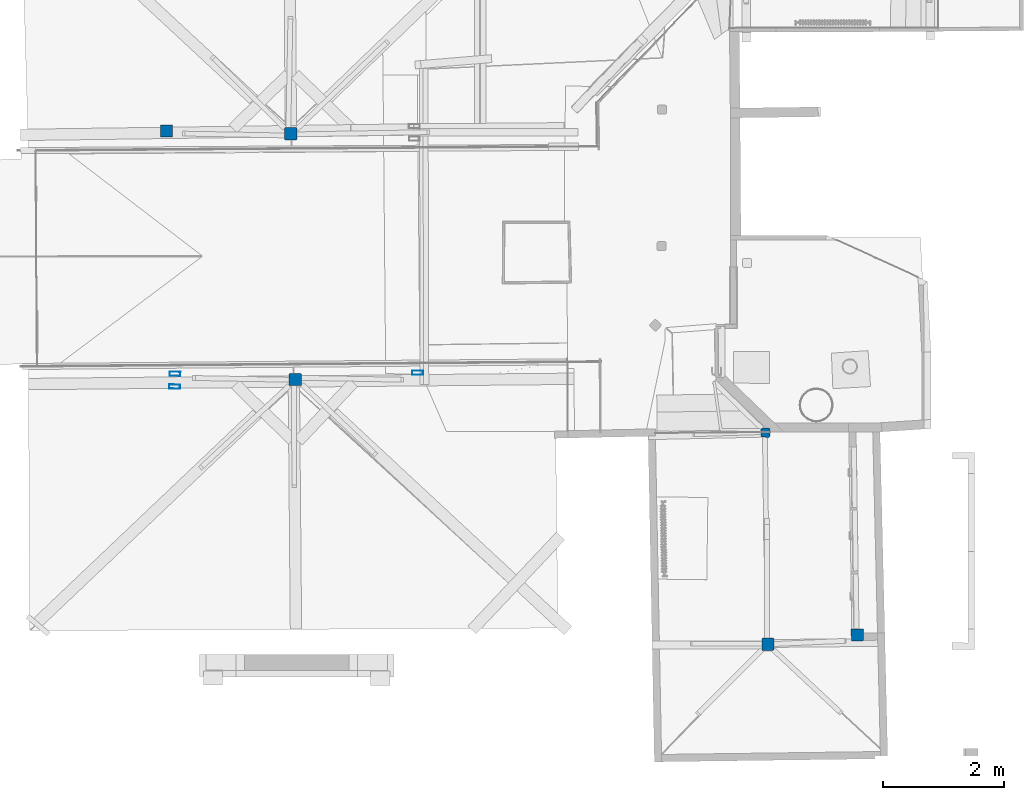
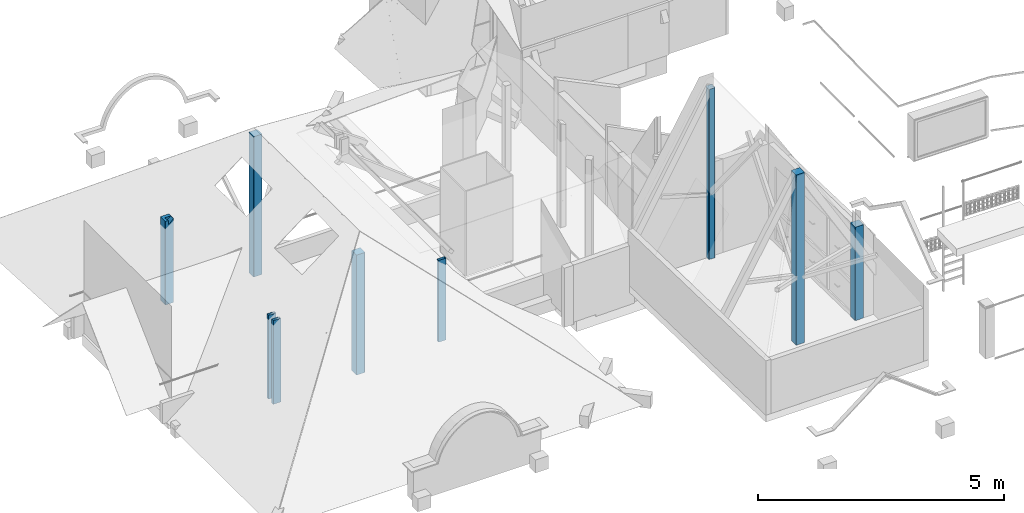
# One storey, part 1 of 39: 9 columns.
"""IFC2X3 building model written with IfcOpenShell, lengths in centimetres."""

import ifcopenshell
import ifcopenshell.guid

model = None  # the IFC model being written
_history = None  # IfcOwnerHistory: only IFC2X3 demands one
_inside = {}  # id of a spatial element -> (the spatial element, [elements in it])
_under = {}  # id of a project, library or spatial element -> (it, [spatial elements below it])
_declared = {}  # id of a project -> (the project, [libraries it declares])
_typed = {}  # id of a type object -> (the type object, [elements of that type])
_made_of = {}  # id of a material, layer set ... -> (it, [elements and type objects made of it])


def new_model(schema):
    """Start an empty IFC model of exactly this schema.

    Asked for "IFC4X3", IfcOpenShell would pick the latest addendum, in which some entities
    have other attributes; the version numbers below select the first issue.
    IFC2X3 requires an IfcOwnerHistory on every rooted entity: one is made here for all.
    """
    global model, _history
    if schema == "IFC4X3":
        model = ifcopenshell.file(schema_version=(4, 3, 0, 0))
    else:
        model = ifcopenshell.file(schema=schema)
    _inside.clear()
    _under.clear()
    _declared.clear()
    _typed.clear()
    _made_of.clear()
    _history = None
    if model.schema == "IFC2X3":
        org = make("IfcOrganization", Name="unknown")
        user = make(
            "IfcPersonAndOrganization",
            ThePerson=make("IfcPerson", FamilyName="unknown"),
            TheOrganization=org,
        )
        app = make(
            "IfcApplication",
            ApplicationDeveloper=org,
            Version="unknown",
            ApplicationFullName="unknown",
            ApplicationIdentifier="unknown",
        )
        _history = make(
            "IfcOwnerHistory",
            OwningUser=user,
            OwningApplication=app,
            ChangeAction="ADDED",
            CreationDate=0,
        )
    return model


def make(cls, **values):
    """One entity of the class cls with the attributes given. An attribute that is None is left unset."""
    return model.create_entity(
        cls, **{name: value for name, value in values.items() if value is not None}
    )


def entity(cls, *values):
    """Any entity or typed value of the class cls, its attributes in the order of the schema. None: left unset."""
    e = model.create_entity(cls)
    for i, value in enumerate(values):
        if value is not None:
            e[i] = value
    return e


def rooted(cls, **values):
    """An entity with a GlobalId (a new one), such as an element, a storey or a relation."""
    return make(cls, GlobalId=ifcopenshell.guid.new(), OwnerHistory=_history, **values)


def si_unit(unit_type, name, prefix=None):
    """IfcSIUnit, for example si_unit("LENGTHUNIT", "METRE", prefix="MILLI")."""
    return make("IfcSIUnit", UnitType=unit_type, Prefix=prefix, Name=name)


def converted_unit(unit_type, name, factor, base, dimensions=None, offset=None):
    """IfcConversionBasedUnit, such as the inch: factor (a typed value) times the base unit."""
    return make(
        "IfcConversionBasedUnit"
        if offset is None
        else "IfcConversionBasedUnitWithOffset",
        ConversionOffset=offset,
        Dimensions=None
        if dimensions is None
        else entity("IfcDimensionalExponents", *dimensions),
        UnitType=unit_type,
        Name=name,
        ConversionFactor=make(
            "IfcMeasureWithUnit", ValueComponent=factor, UnitComponent=base
        ),
    )


def assignment(units):
    """IfcUnitAssignment: the units of a project."""
    return None if units is None else make("IfcUnitAssignment", Units=units)


def point(xyz):
    """IfcCartesianPoint."""
    return None if xyz is None else make("IfcCartesianPoint", Coordinates=xyz)


def direction(xyz):
    """IfcDirection."""
    return None if xyz is None else make("IfcDirection", DirectionRatios=xyz)


def frame(location, z_axis=None, x_axis=None):
    """IfcAxis2Placement3D, a coordinate frame: its origin and axes. An axis left out is left unset."""
    return make(
        "IfcAxis2Placement3D",
        Location=point(location),
        Axis=direction(z_axis),
        RefDirection=direction(x_axis),
    )


def frame_2d(location, x_axis=None):
    """IfcAxis2Placement2D, a coordinate frame in the plane: its origin and x axis."""
    return make(
        "IfcAxis2Placement2D", Location=point(location), RefDirection=direction(x_axis)
    )


def origin():
    """The frame at (0, 0, 0) with its axes left unset."""
    return frame((0.0, 0.0, 0.0))


def origin_with_axes():
    """The frame at (0, 0, 0) with the z axis (0, 0, 1) and the x axis (1, 0, 0) written out."""
    return frame((0.0, 0.0, 0.0), z_axis=(0.0, 0.0, 1.0), x_axis=(1.0, 0.0, 0.0))


def origin_2d_with_axis():
    """The frame at (0, 0) in the plane with the x axis (1, 0) written out."""
    return frame_2d((0.0, 0.0), x_axis=(1.0, 0.0))


def place(relative_to, where):
    """IfcLocalPlacement: puts the frame where relative to a parent placement (None: the world)."""
    return make(
        "IfcLocalPlacement", PlacementRelTo=relative_to, RelativePlacement=where
    )


def context(
    kind, dimensions, precision=None, world=None, true_north=None, identifier=None
):
    """IfcGeometricRepresentationContext, for example the 3D "Model" context."""
    return make(
        "IfcGeometricRepresentationContext",
        ContextIdentifier=identifier,
        ContextType=kind,
        CoordinateSpaceDimension=dimensions,
        Precision=precision,
        WorldCoordinateSystem=world,
        TrueNorth=true_north,
    )


def subcontext(parent, identifier, kind, view, scale=None):
    """IfcGeometricRepresentationSubContext, for example "Body" below "Model"."""
    return make(
        "IfcGeometricRepresentationSubContext",
        ContextIdentifier=identifier,
        ContextType=kind,
        ParentContext=parent,
        TargetScale=scale,
        TargetView=view,
    )


def project(units=None, contexts=None):
    """IfcProject with its units and contexts."""
    return rooted(
        "IfcProject",
        Name="project",
        RepresentationContexts=contexts,
        UnitsInContext=assignment(units),
    )


def spatial(cls, under=None, at=None, **own):
    """A site, building, storey or space (cls), placed at a placement, below another one or the project."""
    s = rooted(cls, ObjectPlacement=at, **own)
    if under is not None:
        _under.setdefault(under.id(), (under, []))[1].append(s)
    return s


def polyline(points):
    """IfcPolyline through the points."""
    return make("IfcPolyline", Points=[point(p) for p in points])


def profile(cls, at=None, kind="AREA", **sizes):
    """A parametric profile (cls). Its sizes go by their IFC names, for example OverallWidth=200.0."""
    return make(cls, ProfileType=kind, Position=at, **sizes)


def rounded_rectangle(**sizes):
    """IfcRoundedRectangleProfileDef."""
    return profile("IfcRoundedRectangleProfileDef", **sizes)


def hollow_rectangle(**sizes):
    """IfcRectangleHollowProfileDef."""
    return profile("IfcRectangleHollowProfileDef", **sizes)


def extrude(swept, where, along, depth):
    """IfcExtrudedAreaSolid: the profile swept, set in the frame where, extruded along a direction by depth."""
    return make(
        "IfcExtrudedAreaSolid",
        SweptArea=swept,
        Position=where,
        ExtrudedDirection=direction(along),
        Depth=depth,
    )


def clip(a, b, op="DIFFERENCE"):
    """IfcBooleanClippingResult: the solid a cut by the half space b."""
    return make(
        "IfcBooleanClippingResult", Operator=op, FirstOperand=a, SecondOperand=b
    )


def bounded_halfspace(plane, agree, where, boundary):
    """IfcPolygonalBoundedHalfSpace: a half space limited to a polygon's prism."""
    return make(
        "IfcPolygonalBoundedHalfSpace",
        BaseSurface=make("IfcPlane", Position=plane),
        AgreementFlag=agree,
        Position=where,
        PolygonalBoundary=boundary,
    )


def shape(context_of_items, identifier, shape_type, items):
    """IfcShapeRepresentation: the items that make up one representation, for example the "Body"."""
    return make(
        "IfcShapeRepresentation",
        ContextOfItems=context_of_items,
        RepresentationIdentifier=identifier,
        RepresentationType=shape_type,
        Items=items,
    )


def source(mapping_origin, context_of_items, identifier, shape_type, items):
    """IfcRepresentationMap: a shape defined once, which mapped items show again and again."""
    return make(
        "IfcRepresentationMap",
        MappingOrigin=mapping_origin,
        MappedRepresentation=shape(context_of_items, identifier, shape_type, items),
    )


def transform(
    local_origin,
    x_axis=None,
    y_axis=None,
    z_axis=None,
    scale=None,
    scale2=None,
    scale3=None,
    uniform=True,
):
    """IfcCartesianTransformationOperator3D, or its non-uniform kind. x_axis, y_axis, z_axis: its Axis1, 2, 3."""
    if uniform:
        return make(
            "IfcCartesianTransformationOperator3D",
            Axis1=direction(x_axis),
            Axis2=direction(y_axis),
            LocalOrigin=point(local_origin),
            Scale=scale,
            Axis3=direction(z_axis),
        )
    return make(
        "IfcCartesianTransformationOperator3DnonUniform",
        Axis1=direction(x_axis),
        Axis2=direction(y_axis),
        LocalOrigin=point(local_origin),
        Scale=scale,
        Axis3=direction(z_axis),
        Scale2=scale2,
        Scale3=scale3,
    )


def mapped(mapping_source, mapping_target):
    """IfcMappedItem: shows the shape of a source again, moved by a transform."""
    return make(
        "IfcMappedItem", MappingSource=mapping_source, MappingTarget=mapping_target
    )


def material(Name=None, Category=None):
    """IfcMaterial."""
    return make("IfcMaterial", Name=Name, Category=Category)


def made_of(thing, what):
    """Note that an element or type object is made of a material, layer set ...; save() writes the relation."""
    if what is not None:
        _made_of.setdefault(what.id(), (what, []))[1].append(thing)
    return thing


def type_object(cls, material=None, **own):
    """A type object (cls), such as IfcWallType, which elements share."""
    return made_of(rooted(cls, **own), material)


def element(
    cls,
    number,
    at=None,
    inside=None,
    cuts=None,
    type_object=None,
    material=None,
    context=None,
    identifier="Body",
    shape_type=None,
    held_by="IfcProductDefinitionShape",
    body=None,
    shapes=None,
    **own,
):
    """One element of the class cls, such as IfcWall. Its Tag is "e" and its number.

    at: its placement. inside: the storey or other place that contains it. cuts: it is an
    opening in that element (IfcRelVoidsElement). A single representation is given by context,
    identifier, shape_type and body (its items); several are given by shapes. held_by: the class
    of the entity that holds the representations. save() writes the other relations.
    """
    e = rooted(cls, Tag="e%d" % number, ObjectPlacement=at, **own)
    if body is not None:
        shapes = [shape(context, identifier, shape_type, body)]
    if shapes is not None:
        e.Representation = make(held_by, Representations=shapes)
    if inside is not None:
        _inside.setdefault(inside.id(), (inside, []))[1].append(e)
    if cuts is not None:
        rooted(
            "IfcRelVoidsElement", RelatingBuildingElement=cuts, RelatedOpeningElement=e
        )
    if type_object is not None:
        _typed.setdefault(type_object.id(), (type_object, []))[1].append(e)
    return made_of(e, material)


def aggregate(whole, parts):
    """IfcRelAggregates: a whole, such as a stair, and the parts it consists of."""
    return rooted("IfcRelAggregates", RelatingObject=whole, RelatedObjects=parts)


def save(model, path):
    """Write the relations noted so far, then the file.

    IfcRelAggregates (storeys below a building ...), IfcRelContainedInSpatialStructure (elements
    in a storey), IfcRelDefinesByType, IfcRelAssociatesMaterial and IfcRelDeclares: one each for
    every whole, place, type object, material and project.
    """
    for whole, parts in _under.values():
        aggregate(whole, parts)
    for where, things in _inside.values():
        rooted(
            "IfcRelContainedInSpatialStructure",
            RelatedElements=things,
            RelatingStructure=where,
        )
    for kind, things in _typed.values():
        rooted("IfcRelDefinesByType", RelatedObjects=things, RelatingType=kind)
    for what, things in _made_of.values():
        rooted("IfcRelAssociatesMaterial", RelatedObjects=things, RelatingMaterial=what)
    for by, libraries in _declared.values():
        rooted("IfcRelDeclares", RelatingContext=by, RelatedDefinitions=libraries)
    model.write(path)


model = new_model("IFC2X3")

# Units and contexts
model_context = context("Model", 3, precision=0.0001, world=origin(), true_north=direction((0.225632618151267, 0.974212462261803, 0.0)))
body_context = subcontext(model_context, "Body", "Model", "MODEL_VIEW")
ifc_project = project(units=[si_unit("LENGTHUNIT", "METRE", prefix="CENTI"), si_unit("AREAUNIT", "SQUARE_METRE", prefix="CENTI"), si_unit("VOLUMEUNIT", "CUBIC_METRE", prefix="CENTI"), converted_unit("PLANEANGLEUNIT", "DEGREE", entity("IfcRatioMeasure", 0.0174532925), si_unit("PLANEANGLEUNIT", "RADIAN"), dimensions=[0, 0, 0, 0, 0, 0, 0])], contexts=[model_context])

# Site, building, storey
site_placement = place(None, origin_with_axes())
site = spatial("IfcSite", under=ifc_project, at=site_placement, Name="Default Site", CompositionType="ELEMENT")
building_placement = place(site_placement, origin_with_axes())
building = spatial("IfcBuilding", under=site, at=building_placement, Name="Default Building", CompositionType="ELEMENT")
storey_placement = place(building_placement, frame((0.0, 0.0, 1088.91037418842), z_axis=(0.0, 0.0, 1.0), x_axis=(1.0, 0.0, 0.0)))
storey = spatial("IfcBuildingStorey", under=building, at=storey_placement, Name="Mezzanine", CompositionType="ELEMENT", Elevation=1088.91037418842)

# Columns
ifc_material = material(Name="Blanc")
column_type_1 = type_object("IfcColumnType", Name="150.0x150.0x25.0", PredefinedType="USERDEFINED", material=ifc_material)
shared_shape_1 = source(origin_with_axes(), body_context, "Body", "SweptSolid", [
    extrude(rounded_rectangle(XDim=15.0, YDim=15.0, RoundingRadius=2.5, at=origin_2d_with_axis()), origin_with_axes(), (0.0, 0.0, 1.0), 100.0),
])
column_1_placement = place(storey_placement, frame((564.909839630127, -353.625535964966, 48.0), z_axis=(0.0, 0.0, 1.0), x_axis=(0.0290244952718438, 0.999578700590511, 0.0)))
element("IfcColumn", 1, at=column_1_placement, inside=storey, type_object=column_type_1, material=ifc_material, Name="Poteau 197039", ObjectType="column", context=body_context, shape_type="MappedRepresentation", body=[
    mapped(shared_shape_1, transform((0.0, 0.0, 1.77635683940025e-13), x_axis=(1.0, 0.0, 0.0), y_axis=(0.0, 1.0, 0.0), z_axis=(0.0, 0.0, 1.0), scale=1.0, scale2=1.0, scale3=4.21702416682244, uniform=False)),
])
column_type_2 = type_object("IfcColumnType", Name="180x68", PredefinedType="USERDEFINED", material=ifc_material)
shared_shape_2 = source(origin_with_axes(), body_context, "Body", "SweptSolid", [
    extrude(hollow_rectangle(XDim=6.8, YDim=18.0, WallThickness=0.2, at=origin_2d_with_axis()), origin_with_axes(), (0.0, 0.0, 1.0), 100.0),
])
for number, where, z_axis, x_axis, name in (
    (2, (-408.325649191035, -256.779685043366, -18.0), (0.0, 0.0, 1.0), (-0.00583777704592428, -0.999982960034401, 0.0), "Poteau 222993"),
    (3, (-409.057910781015, -277.61047616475, -18.0), (0.0, 0.0, 1.0), (-0.00583777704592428, -0.999982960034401, 0.0), "Poteau 222994"),
):
    element("IfcColumn", number, at=place(storey_placement, frame(where, z_axis=z_axis, x_axis=x_axis)), inside=storey, type_object=column_type_2, material=ifc_material, Name=name, ObjectType="column", context=body_context, shape_type="MappedRepresentation", body=[
        mapped(shared_shape_2, transform((0.0, 0.0, -3.5527136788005e-13), x_axis=(1.0, 0.0, 0.0), y_axis=(0.0, 1.0, 0.0), z_axis=(0.0, 0.0, 1.0), scale=1.0, scale2=1.0, scale3=2.07702416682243, uniform=False)),
    ])
column_2_placement = place(storey_placement, frame((-8.64130953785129, -254.834415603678, -18.0), z_axis=(0.0, 0.0, 1.0), x_axis=(-0.00583777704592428, -0.999982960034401, 0.0)))
element("IfcColumn", 4, at=column_2_placement, inside=storey, type_object=column_type_2, material=ifc_material, Name="Poteau 222999", ObjectType="column", context=body_context, shape_type="MappedRepresentation", body=[
    mapped(shared_shape_2, transform((0.0, 0.0, -3.5527136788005e-13), x_axis=(1.0, 0.0, 0.0), y_axis=(0.0, 1.0, 0.0), z_axis=(0.0, 0.0, 1.0), scale=1.0, scale2=1.0, scale3=2.02702416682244, uniform=False)),
])
column_type_3 = type_object("IfcColumnType", Name="200,00x200,00x10,00", PredefinedType="USERDEFINED", material=ifc_material)
shared_shape_3 = source(origin_with_axes(), body_context, "Body", "SweptSolid", [
    extrude(rounded_rectangle(XDim=20.0, YDim=20.0, RoundingRadius=1.0, at=origin_2d_with_axis()), origin_with_axes(), (0.0, 0.0, 1.0), 100.0),
])
column_3_placement = place(storey_placement, frame((716.016121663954, -686.808071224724, 48.0), z_axis=(0.0, 0.0, 1.0), x_axis=(-0.00957308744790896, 0.999954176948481, 0.0)))
element("IfcColumn", 5, at=column_3_placement, inside=storey, type_object=column_type_3, material=ifc_material, Name="Poteau 198254", ObjectType="column", context=body_context, shape_type="MappedRepresentation", body=[
    mapped(shared_shape_3, transform((0.0, 8.88178419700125e-14, 0.0), x_axis=(1.0, 0.0, 0.0), y_axis=(0.0, 1.0, 0.0), z_axis=(0.0, 0.0, 1.0), scale=1.0, scale2=1.0, scale3=2.31702416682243, uniform=False)),
])
column_4_placement = place(storey_placement, frame((-217.642617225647, 139.080667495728, -18.0), z_axis=(0.0, 0.0, 1.0), x_axis=(1.0, 0.0, 0.0)))
element("IfcColumn", 6, at=column_4_placement, inside=storey, type_object=column_type_3, material=ifc_material, Name="Poteau 222978", ObjectType="column", context=body_context, shape_type="MappedRepresentation", body=[
    mapped(shared_shape_3, transform((0.0, 0.0, -1.77635683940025e-13), x_axis=(1.0, 0.0, 0.0), y_axis=(0.0, 1.0, 0.0), z_axis=(0.0, 0.0, 1.0), scale=1.0, scale2=1.0, scale3=3.48, uniform=False)),
])
column_5_placement = place(storey_placement, frame((-210.218858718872, -266.058349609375, -18.0), z_axis=(0.0, 0.0, 1.0), x_axis=(1.0, 0.0, 0.0)))
element("IfcColumn", 7, at=column_5_placement, inside=storey, type_object=column_type_3, material=ifc_material, Name="Poteau 222990", ObjectType="column", context=body_context, shape_type="MappedRepresentation", body=[
    mapped(shared_shape_3, transform((0.0, 0.0, -1.77635683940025e-13), x_axis=(1.0, 0.0, 0.0), y_axis=(0.0, 1.0, 0.0), z_axis=(0.0, 0.0, 1.0), scale=1.0, scale2=1.0, scale3=2.97702416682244, uniform=False)),
])
column_6_placement = place(storey_placement, frame((568.771424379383, -702.224653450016, 48.0), z_axis=(0.0, 0.0, 1.0), x_axis=(-0.00957308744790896, 0.999954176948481, 0.0)))
element("IfcColumn", 8, at=column_6_placement, inside=storey, type_object=column_type_3, material=ifc_material, Name="Poteau 198086", ObjectType="column", context=body_context, shape_type="MappedRepresentation", body=[
    mapped(shared_shape_3, transform((0.0, 0.0, 0.0), x_axis=(1.0, 0.0, 0.0), y_axis=(0.0, 1.0, 0.0), z_axis=(0.0, 0.0, 1.0), scale=1.0, scale2=1.0, scale3=4.21702416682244, uniform=False)),
])
column_7_placement = place(storey_placement, frame((-422.150491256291, 143.331376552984, -18.0), z_axis=(0.0, 0.0, 1.0), x_axis=(1.0, 0.0, 0.0)))
element("IfcColumn", 9, at=column_7_placement, inside=storey, type_object=column_type_3, material=ifc_material, Name="Poteau 222975", ObjectType="column", context=body_context, shape_type="Clipping", body=[
    clip(extrude(rounded_rectangle(XDim=20.0, YDim=20.0, RoundingRadius=1.0, at=origin_2d_with_axis()), origin_with_axes(), (0.0, 0.0, 1.0), 207.349121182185), bounded_halfspace(frame((9.99999999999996, 1.97862344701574, 208.547299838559), z_axis=(0.696860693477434, 0.0135514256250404, -0.717078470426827), x_axis=(-0.165860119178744, 0.975763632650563, -0.142743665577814)), True, frame((9.99999999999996, 1.97862344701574, 208.547299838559), z_axis=(0.0, 0.0, 1.0), x_axis=(1.0, 0.0, 0.0)), polyline([(-12.8545087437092, -11.9786234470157), (-14.8415087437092, -0.289000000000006), (0.0, 0.0), (0.0, -10.9786234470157), (-0.0192147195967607, -11.1737137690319), (-0.0761204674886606, -11.3613068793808), (-0.168530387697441, -11.5341936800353), (-0.29289321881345, -11.6857302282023), (-0.444429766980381, -11.8100930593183), (-0.617316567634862, -11.902502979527), (-0.804909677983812, -11.959408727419), (-0.999999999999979, -11.9786234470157), (-12.8545087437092, -11.9786234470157)]))),
])

save(model, "model.ifc")
